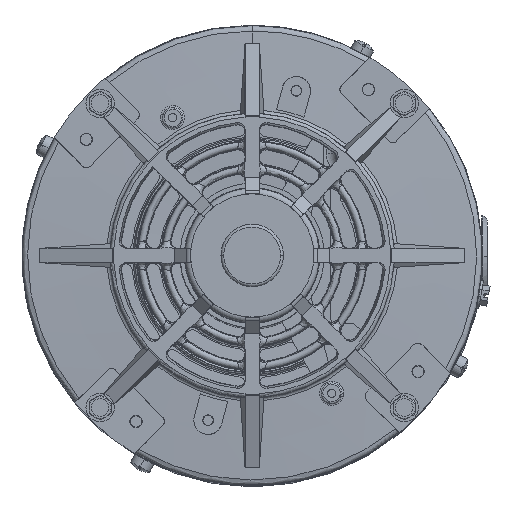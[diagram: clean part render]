
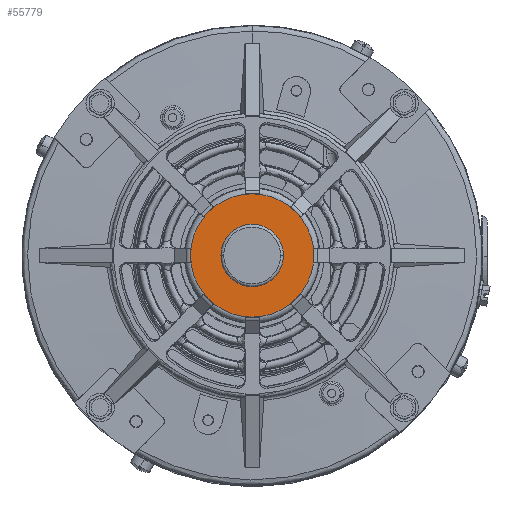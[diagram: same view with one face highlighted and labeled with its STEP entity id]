
A CAD part, top view. The second image highlights one B-rep face of the part: STEP entity #55779.
In plain terms, the highlighted planar face has unit normal (0, 0, 1).
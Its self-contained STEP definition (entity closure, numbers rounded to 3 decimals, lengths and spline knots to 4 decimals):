
#1744 = VERTEX_POINT ( 'NONE', #99702 ) ;
#1935 = DIRECTION ( 'NONE',  ( 0., 0., -1. ) ) ;
#2320 = DIRECTION ( 'NONE',  ( 0., 1., 0. ) ) ;
#2570 = EDGE_CURVE ( 'NONE', #36912, #99758, #5573, .T. ) ;
#2682 = VERTEX_POINT ( 'NONE', #27394 ) ;
#3070 = AXIS2_PLACEMENT_3D ( 'NONE', #57510, #1935, #2320 ) ;
#5342 = CARTESIAN_POINT ( 'NONE',  ( 0.8677, 0., 16.7601 ) ) ;
#5573 = CIRCLE ( 'NONE', #47439, 0.8677 ) ;
#5894 = DIRECTION ( 'NONE',  ( 1., 0., 0. ) ) ;
#7343 = CIRCLE ( 'NONE', #39067, 0.8677 ) ;
#8225 = AXIS2_PLACEMENT_3D ( 'NONE', #95579, #50096, #95995 ) ;
#9226 = CARTESIAN_POINT ( 'NONE',  ( 0.6136, 0.6136, 16.7601 ) ) ;
#12803 = FACE_OUTER_BOUND ( 'NONE', #80004, .T. ) ;
#15041 = EDGE_CURVE ( 'NONE', #99758, #67820, #7343, .T. ) ;
#16970 = ORIENTED_EDGE ( 'NONE', *, *, #60857, .F. ) ;
#18502 = DIRECTION ( 'NONE',  ( 0., 0., -1. ) ) ;
#18892 = ORIENTED_EDGE ( 'NONE', *, *, #100587, .F. ) ;
#20324 = CARTESIAN_POINT ( 'NONE',  ( 0., 0., 16.7601 ) ) ;
#20495 = DIRECTION ( 'NONE',  ( 0., 1., 0. ) ) ;
#22238 = CARTESIAN_POINT ( 'NONE',  ( 0., 0.8677, 16.7601 ) ) ;
#22695 = DIRECTION ( 'NONE',  ( 0., 1., 0. ) ) ;
#25762 = ORIENTED_EDGE ( 'NONE', *, *, #44855, .F. ) ;
#26609 = CARTESIAN_POINT ( 'NONE',  ( 0., 0., 16.7601 ) ) ;
#27008 = AXIS2_PLACEMENT_3D ( 'NONE', #58157, #94772, #48418 ) ;
#27394 = CARTESIAN_POINT ( 'NONE',  ( -0.6136, -0.6136, 16.7601 ) ) ;
#28246 = EDGE_CURVE ( 'NONE', #67820, #105903, #75494, .T. ) ;
#28738 = VERTEX_POINT ( 'NONE', #100473 ) ;
#28957 = EDGE_CURVE ( 'NONE', #28738, #45942, #47098, .T. ) ;
#29467 = EDGE_CURVE ( 'NONE', #1744, #40238, #73798, .T. ) ;
#31182 = DIRECTION ( 'NONE',  ( 0., 0., -1. ) ) ;
#32012 = DIRECTION ( 'NONE',  ( 0., 1., 0. ) ) ;
#33486 = EDGE_LOOP ( 'NONE', ( #16970, #38166 ) ) ;
#35881 = CIRCLE ( 'NONE', #3070, 0.8677 ) ;
#36912 = VERTEX_POINT ( 'NONE', #9226 ) ;
#38058 = ORIENTED_EDGE ( 'NONE', *, *, #63260, .F. ) ;
#38166 = ORIENTED_EDGE ( 'NONE', *, *, #28957, .F. ) ;
#39067 = AXIS2_PLACEMENT_3D ( 'NONE', #77725, #61849, #70729 ) ;
#40238 = VERTEX_POINT ( 'NONE', #71341 ) ;
#40931 = CARTESIAN_POINT ( 'NONE',  ( 0., 0., 16.7601 ) ) ;
#44279 = VERTEX_POINT ( 'NONE', #22238 ) ;
#44855 = EDGE_CURVE ( 'NONE', #105903, #2682, #114721, .T. ) ;
#45689 = ORIENTED_EDGE ( 'NONE', *, *, #2570, .F. ) ;
#45942 = VERTEX_POINT ( 'NONE', #111025 ) ;
#47098 = CIRCLE ( 'NONE', #85501, 0.3435 ) ;
#47439 = AXIS2_PLACEMENT_3D ( 'NONE', #20324, #94647, #85244 ) ;
#47795 = ORIENTED_EDGE ( 'NONE', *, *, #56925, .F. ) ;
#48083 = CARTESIAN_POINT ( 'NONE',  ( 0., 0., 16.7601 ) ) ;
#48130 = CARTESIAN_POINT ( 'NONE',  ( 0., 0., 16.7601 ) ) ;
#48418 = DIRECTION ( 'NONE',  ( 0., 1., 0. ) ) ;
#50096 = DIRECTION ( 'NONE',  ( 0., 0., -1. ) ) ;
#52761 = ORIENTED_EDGE ( 'NONE', *, *, #29467, .F. ) ;
#54420 = AXIS2_PLACEMENT_3D ( 'NONE', #40931, #97006, #22695 ) ;
#55779 = ADVANCED_FACE ( 'NONE', ( #101510, #12803 ), #66657, .F. ) ;
#56925 = EDGE_CURVE ( 'NONE', #110153, #44279, #35881, .T. ) ;
#57480 = DIRECTION ( 'NONE',  ( 1., 0., 0. ) ) ;
#57510 = CARTESIAN_POINT ( 'NONE',  ( 0., 0., 16.7601 ) ) ;
#58157 = CARTESIAN_POINT ( 'NONE',  ( 0., 0.32, 16.7601 ) ) ;
#58605 = DIRECTION ( 'NONE',  ( 0., 0., -1. ) ) ;
#59239 = CIRCLE ( 'NONE', #68087, 0.8677 ) ;
#59757 = AXIS2_PLACEMENT_3D ( 'NONE', #110232, #18502, #92045 ) ;
#60857 = EDGE_CURVE ( 'NONE', #45942, #28738, #65236, .T. ) ;
#61849 = DIRECTION ( 'NONE',  ( 0., 0., -1. ) ) ;
#63260 = EDGE_CURVE ( 'NONE', #44279, #36912, #59239, .T. ) ;
#65236 = CIRCLE ( 'NONE', #67906, 0.3435 ) ;
#65479 = AXIS2_PLACEMENT_3D ( 'NONE', #96241, #31182, #32012 ) ;
#66657 = PLANE ( 'NONE',  #27008 ) ;
#67820 = VERTEX_POINT ( 'NONE', #118329 ) ;
#67906 = AXIS2_PLACEMENT_3D ( 'NONE', #48130, #113027, #57480 ) ;
#68087 = AXIS2_PLACEMENT_3D ( 'NONE', #97492, #109526, #108733 ) ;
#68119 = AXIS2_PLACEMENT_3D ( 'NONE', #48083, #58605, #20495 ) ;
#69674 = ORIENTED_EDGE ( 'NONE', *, *, #86803, .F. ) ;
#70729 = DIRECTION ( 'NONE',  ( 0., 1., 0. ) ) ;
#71341 = CARTESIAN_POINT ( 'NONE',  ( -0.8677, 0., 16.7601 ) ) ;
#72049 = ORIENTED_EDGE ( 'NONE', *, *, #28246, .F. ) ;
#73798 = CIRCLE ( 'NONE', #54420, 0.8677 ) ;
#74945 = DIRECTION ( 'NONE',  ( 0., 0., 1. ) ) ;
#75494 = CIRCLE ( 'NONE', #59757, 0.8677 ) ;
#77725 = CARTESIAN_POINT ( 'NONE',  ( 0., 0., 16.7601 ) ) ;
#80004 = EDGE_LOOP ( 'NONE', ( #38058, #47795, #69674, #52761, #18892, #25762, #72049, #119601, #45689 ) ) ;
#81858 = CIRCLE ( 'NONE', #65479, 0.8677 ) ;
#83658 = CARTESIAN_POINT ( 'NONE',  ( -0.6136, 0.6136, 16.7601 ) ) ;
#85244 = DIRECTION ( 'NONE',  ( 0., 1., 0. ) ) ;
#85501 = AXIS2_PLACEMENT_3D ( 'NONE', #26609, #74945, #5894 ) ;
#86803 = EDGE_CURVE ( 'NONE', #40238, #110153, #81858, .T. ) ;
#92045 = DIRECTION ( 'NONE',  ( 0., 1., 0. ) ) ;
#94647 = DIRECTION ( 'NONE',  ( 0., 0., -1. ) ) ;
#94772 = DIRECTION ( 'NONE',  ( 0., 0., -1. ) ) ;
#95496 = CIRCLE ( 'NONE', #68119, 0.8677 ) ;
#95579 = CARTESIAN_POINT ( 'NONE',  ( 0., 0., 16.7601 ) ) ;
#95995 = DIRECTION ( 'NONE',  ( 0., 1., 0. ) ) ;
#96241 = CARTESIAN_POINT ( 'NONE',  ( 0., 0., 16.7601 ) ) ;
#97006 = DIRECTION ( 'NONE',  ( 0., 0., -1. ) ) ;
#97492 = CARTESIAN_POINT ( 'NONE',  ( 0., 0., 16.7601 ) ) ;
#99702 = CARTESIAN_POINT ( 'NONE',  ( -0.6136, -0.6136, 16.7601 ) ) ;
#99758 = VERTEX_POINT ( 'NONE', #5342 ) ;
#100473 = CARTESIAN_POINT ( 'NONE',  ( -0.3435, 0., 16.7601 ) ) ;
#100587 = EDGE_CURVE ( 'NONE', #2682, #1744, #95496, .T. ) ;
#101510 = FACE_BOUND ( 'NONE', #33486, .T. ) ;
#105903 = VERTEX_POINT ( 'NONE', #115854 ) ;
#108733 = DIRECTION ( 'NONE',  ( 0., 1., 0. ) ) ;
#109526 = DIRECTION ( 'NONE',  ( 0., 0., -1. ) ) ;
#110153 = VERTEX_POINT ( 'NONE', #83658 ) ;
#110232 = CARTESIAN_POINT ( 'NONE',  ( 0., 0., 16.7601 ) ) ;
#111025 = CARTESIAN_POINT ( 'NONE',  ( 0.3435, 0., 16.7601 ) ) ;
#113027 = DIRECTION ( 'NONE',  ( 0., 0., 1. ) ) ;
#114721 = CIRCLE ( 'NONE', #8225, 0.8677 ) ;
#115854 = CARTESIAN_POINT ( 'NONE',  ( 0., -0.8677, 16.7601 ) ) ;
#118329 = CARTESIAN_POINT ( 'NONE',  ( 0.6136, -0.6136, 16.7601 ) ) ;
#119601 = ORIENTED_EDGE ( 'NONE', *, *, #15041, .F. ) ;
